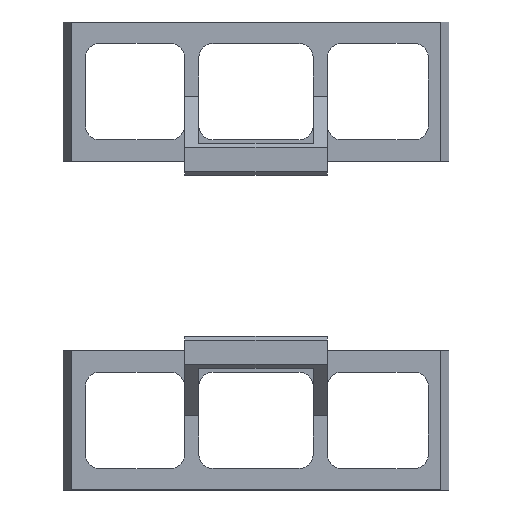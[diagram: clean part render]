
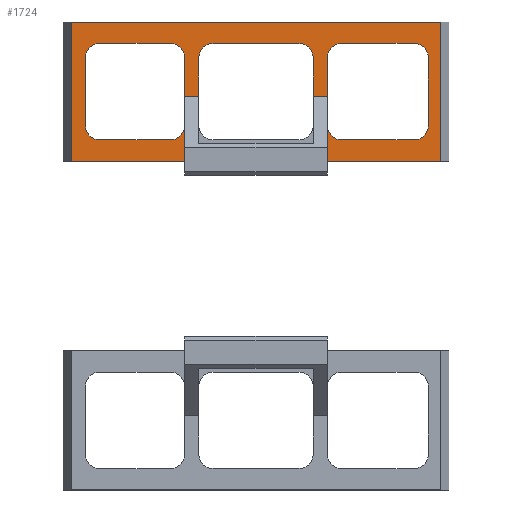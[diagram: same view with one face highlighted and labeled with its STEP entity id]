
A CAD part, top view. The second image highlights one B-rep face of the part: STEP entity #1724.
In plain terms, the highlighted planar face has unit normal (0, 0, 1).
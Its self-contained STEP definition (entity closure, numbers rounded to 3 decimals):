
#43=PLANE('',#1835);
#90=VECTOR('',#1937,1.);
#94=VECTOR('',#1948,1.);
#98=VECTOR('',#1959,1.);
#104=VECTOR('',#1978,1.);
#116=VECTOR('',#2016,1.);
#120=VECTOR('',#2027,1.);
#124=VECTOR('',#2038,1.);
#130=VECTOR('',#2051,1.);
#131=VECTOR('',#2052,1.);
#132=VECTOR('',#2053,1.);
#133=VECTOR('',#2054,1.);
#134=VECTOR('',#2055,1.);
#135=VECTOR('',#2056,1.);
#136=VECTOR('',#2057,1.);
#137=VECTOR('',#2058,1.);
#138=VECTOR('',#2059,1.);
#139=VECTOR('',#2060,1.);
#140=VECTOR('',#2061,1.);
#141=VECTOR('',#2062,1.);
#290=LINE('',#2359,#90);
#294=LINE('',#2371,#94);
#298=LINE('',#2383,#98);
#304=LINE('',#2404,#104);
#316=LINE('',#2446,#116);
#320=LINE('',#2458,#120);
#324=LINE('',#2470,#124);
#330=LINE('',#2485,#130);
#331=LINE('',#2488,#131);
#332=LINE('',#2490,#132);
#333=LINE('',#2492,#133);
#334=LINE('',#2493,#134);
#335=LINE('',#2495,#135);
#336=LINE('',#2497,#136);
#337=LINE('',#2498,#137);
#338=LINE('',#2501,#138);
#339=LINE('',#2502,#139);
#340=LINE('',#2504,#140);
#341=LINE('',#2506,#141);
#489=VERTEX_POINT('',#2352);
#490=VERTEX_POINT('',#2354);
#492=VERTEX_POINT('',#2360);
#494=VERTEX_POINT('',#2366);
#496=VERTEX_POINT('',#2372);
#498=VERTEX_POINT('',#2378);
#500=VERTEX_POINT('',#2384);
#502=VERTEX_POINT('',#2390);
#505=VERTEX_POINT('',#2397);
#506=VERTEX_POINT('',#2399);
#508=VERTEX_POINT('',#2405);
#510=VERTEX_POINT('',#2411);
#521=VERTEX_POINT('',#2439);
#522=VERTEX_POINT('',#2441);
#524=VERTEX_POINT('',#2447);
#526=VERTEX_POINT('',#2453);
#528=VERTEX_POINT('',#2459);
#530=VERTEX_POINT('',#2465);
#532=VERTEX_POINT('',#2471);
#534=VERTEX_POINT('',#2477);
#537=VERTEX_POINT('',#2486);
#538=VERTEX_POINT('',#2487);
#539=VERTEX_POINT('',#2489);
#540=VERTEX_POINT('',#2491);
#541=VERTEX_POINT('',#2494);
#542=VERTEX_POINT('',#2496);
#543=VERTEX_POINT('',#2499);
#544=VERTEX_POINT('',#2500);
#545=VERTEX_POINT('',#2503);
#546=VERTEX_POINT('',#2505);
#664=CIRCLE('',#1793,2.);
#666=CIRCLE('',#1797,2.);
#668=CIRCLE('',#1801,2.);
#670=CIRCLE('',#1805,2.);
#672=CIRCLE('',#1808,2.);
#674=CIRCLE('',#1812,2.);
#680=CIRCLE('',#1822,2.);
#682=CIRCLE('',#1826,2.);
#684=CIRCLE('',#1830,2.);
#686=CIRCLE('',#1834,2.);
#721=EDGE_CURVE('',#490,#489,#664,.T.);
#724=EDGE_CURVE('',#492,#490,#290,.T.);
#727=EDGE_CURVE('',#494,#492,#666,.T.);
#730=EDGE_CURVE('',#496,#494,#294,.T.);
#733=EDGE_CURVE('',#498,#496,#668,.T.);
#736=EDGE_CURVE('',#500,#498,#298,.T.);
#739=EDGE_CURVE('',#502,#500,#670,.T.);
#743=EDGE_CURVE('',#506,#505,#672,.T.);
#746=EDGE_CURVE('',#508,#506,#304,.T.);
#749=EDGE_CURVE('',#510,#508,#674,.T.);
#763=EDGE_CURVE('',#522,#521,#680,.T.);
#766=EDGE_CURVE('',#524,#522,#316,.T.);
#769=EDGE_CURVE('',#526,#524,#682,.T.);
#772=EDGE_CURVE('',#528,#526,#320,.T.);
#775=EDGE_CURVE('',#530,#528,#684,.T.);
#778=EDGE_CURVE('',#532,#530,#324,.T.);
#781=EDGE_CURVE('',#534,#532,#686,.T.);
#786=EDGE_CURVE('',#537,#538,#330,.T.);
#787=EDGE_CURVE('',#539,#538,#331,.T.);
#788=EDGE_CURVE('',#540,#539,#332,.T.);
#789=EDGE_CURVE('',#537,#540,#333,.T.);
#790=EDGE_CURVE('',#489,#541,#334,.T.);
#791=EDGE_CURVE('',#541,#542,#335,.T.);
#792=EDGE_CURVE('',#542,#510,#336,.T.);
#793=EDGE_CURVE('',#505,#543,#337,.T.);
#794=EDGE_CURVE('',#543,#544,#335,.T.);
#795=EDGE_CURVE('',#544,#534,#338,.T.);
#796=EDGE_CURVE('',#521,#545,#339,.T.);
#797=EDGE_CURVE('',#545,#546,#340,.T.);
#798=EDGE_CURVE('',#546,#502,#341,.T.);
#1069=ORIENTED_EDGE('',*,*,#786,.T.);
#1070=ORIENTED_EDGE('',*,*,#787,.F.);
#1071=ORIENTED_EDGE('',*,*,#788,.F.);
#1072=ORIENTED_EDGE('',*,*,#789,.F.);
#1073=ORIENTED_EDGE('',*,*,#739,.T.);
#1074=ORIENTED_EDGE('',*,*,#736,.T.);
#1075=ORIENTED_EDGE('',*,*,#733,.T.);
#1076=ORIENTED_EDGE('',*,*,#730,.T.);
#1077=ORIENTED_EDGE('',*,*,#727,.T.);
#1078=ORIENTED_EDGE('',*,*,#724,.T.);
#1079=ORIENTED_EDGE('',*,*,#721,.T.);
#1080=ORIENTED_EDGE('',*,*,#790,.T.);
#1081=ORIENTED_EDGE('',*,*,#791,.T.);
#1082=ORIENTED_EDGE('',*,*,#792,.T.);
#1083=ORIENTED_EDGE('',*,*,#749,.T.);
#1084=ORIENTED_EDGE('',*,*,#746,.T.);
#1085=ORIENTED_EDGE('',*,*,#743,.T.);
#1086=ORIENTED_EDGE('',*,*,#793,.T.);
#1087=ORIENTED_EDGE('',*,*,#794,.T.);
#1088=ORIENTED_EDGE('',*,*,#795,.T.);
#1089=ORIENTED_EDGE('',*,*,#781,.T.);
#1090=ORIENTED_EDGE('',*,*,#778,.T.);
#1091=ORIENTED_EDGE('',*,*,#775,.T.);
#1092=ORIENTED_EDGE('',*,*,#772,.T.);
#1093=ORIENTED_EDGE('',*,*,#769,.T.);
#1094=ORIENTED_EDGE('',*,*,#766,.T.);
#1095=ORIENTED_EDGE('',*,*,#763,.T.);
#1096=ORIENTED_EDGE('',*,*,#796,.T.);
#1097=ORIENTED_EDGE('',*,*,#797,.T.);
#1098=ORIENTED_EDGE('',*,*,#798,.T.);
#1532=EDGE_LOOP('',(#1069,#1070,#1071,#1072));
#1533=EDGE_LOOP('',(#1073,#1074,#1075,#1076,#1077,#1078,#1079,#1080,#1081,
#1082,#1083,#1084,#1085,#1086,#1087,#1088,#1089,#1090,#1091,#1092,#1093,
#1094,#1095,#1096,#1097,#1098));
#1628=FACE_BOUND('',#1532,.T.);
#1629=FACE_BOUND('',#1533,.T.);
#1724=ADVANCED_FACE('',(#1628,#1629),#43,.T.);
#1793=AXIS2_PLACEMENT_3D('',#2353,#1932,#1933);
#1797=AXIS2_PLACEMENT_3D('',#2365,#1943,#1944);
#1801=AXIS2_PLACEMENT_3D('',#2377,#1954,#1955);
#1805=AXIS2_PLACEMENT_3D('',#2389,#1965,#1966);
#1808=AXIS2_PLACEMENT_3D('',#2398,#1973,#1974);
#1812=AXIS2_PLACEMENT_3D('',#2410,#1984,#1985);
#1822=AXIS2_PLACEMENT_3D('',#2440,#2011,#2012);
#1826=AXIS2_PLACEMENT_3D('',#2452,#2022,#2023);
#1830=AXIS2_PLACEMENT_3D('',#2464,#2033,#2034);
#1834=AXIS2_PLACEMENT_3D('',#2476,#2044,#2045);
#1835=AXIS2_PLACEMENT_3D('',#2479,#2047,$);
#1932=DIRECTION('',(0.,0.,-1.));
#1933=DIRECTION('',(2.,0.,0.));
#1937=DIRECTION('',(1.,0.,0.));
#1943=DIRECTION('',(0.,0.,-1.));
#1944=DIRECTION('',(2.,0.,0.));
#1948=DIRECTION('',(0.,1.,0.));
#1954=DIRECTION('',(0.,0.,-1.));
#1955=DIRECTION('',(2.,0.,0.));
#1959=DIRECTION('',(-1.,0.,0.));
#1965=DIRECTION('',(0.,0.,-1.));
#1966=DIRECTION('',(2.,0.,0.));
#1973=DIRECTION('',(0.,0.,-1.));
#1974=DIRECTION('',(2.,0.,0.));
#1978=DIRECTION('',(1.,0.,0.));
#1984=DIRECTION('',(0.,0.,-1.));
#1985=DIRECTION('',(2.,0.,0.));
#2011=DIRECTION('',(0.,0.,-1.));
#2012=DIRECTION('',(2.,0.,0.));
#2016=DIRECTION('',(-1.,0.,0.));
#2022=DIRECTION('',(0.,0.,-1.));
#2023=DIRECTION('',(2.,0.,0.));
#2027=DIRECTION('',(0.,-1.,0.));
#2033=DIRECTION('',(0.,0.,-1.));
#2034=DIRECTION('',(2.,0.,0.));
#2038=DIRECTION('',(1.,0.,0.));
#2044=DIRECTION('',(0.,0.,-1.));
#2045=DIRECTION('',(2.,0.,0.));
#2047=DIRECTION('',(0.,0.,1.));
#2051=DIRECTION('',(1.,0.,0.));
#2052=DIRECTION('',(0.,-1.,0.));
#2053=DIRECTION('',(1.,0.,0.));
#2054=DIRECTION('',(0.,1.,0.));
#2055=DIRECTION('',(0.,-1.,0.));
#2056=DIRECTION('',(1.,0.,0.));
#2057=DIRECTION('',(0.,1.,0.));
#2058=DIRECTION('',(0.,-1.,0.));
#2059=DIRECTION('',(0.,1.,0.));
#2060=DIRECTION('',(0.,-1.,0.));
#2061=DIRECTION('',(-1.,0.,0.));
#2062=DIRECTION('',(0.,1.,0.));
#2352=CARTESIAN_POINT('',(-10.,27.75,2.));
#2353=CARTESIAN_POINT('',(-12.,27.75,2.));
#2354=CARTESIAN_POINT('',(-12.,29.75,2.));
#2359=CARTESIAN_POINT('',(-8.469,29.75,2.));
#2360=CARTESIAN_POINT('',(-21.874,29.75,2.));
#2365=CARTESIAN_POINT('',(-21.874,27.75,2.));
#2366=CARTESIAN_POINT('',(-23.874,27.75,2.));
#2371=CARTESIAN_POINT('',(-23.874,11.5,2.));
#2372=CARTESIAN_POINT('',(-23.874,18.25,2.));
#2377=CARTESIAN_POINT('',(-21.874,18.25,2.));
#2378=CARTESIAN_POINT('',(-21.874,16.25,2.));
#2383=CARTESIAN_POINT('',(-8.469,16.25,2.));
#2384=CARTESIAN_POINT('',(-12.,16.25,2.));
#2389=CARTESIAN_POINT('',(-12.,18.25,2.));
#2390=CARTESIAN_POINT('',(-10.,18.25,2.));
#2397=CARTESIAN_POINT('',(8.,27.75,2.));
#2398=CARTESIAN_POINT('',(6.,27.75,2.));
#2399=CARTESIAN_POINT('',(6.,29.75,2.));
#2404=CARTESIAN_POINT('',(0.,29.75,2.));
#2405=CARTESIAN_POINT('',(-6.,29.75,2.));
#2410=CARTESIAN_POINT('',(-6.,27.75,2.));
#2411=CARTESIAN_POINT('',(-8.,27.75,2.));
#2439=CARTESIAN_POINT('',(10.,18.25,2.));
#2440=CARTESIAN_POINT('',(12.,18.25,2.));
#2441=CARTESIAN_POINT('',(12.,16.25,2.));
#2446=CARTESIAN_POINT('',(8.531,16.25,2.));
#2447=CARTESIAN_POINT('',(22.126,16.25,2.));
#2452=CARTESIAN_POINT('',(22.126,18.25,2.));
#2453=CARTESIAN_POINT('',(24.126,18.25,2.));
#2458=CARTESIAN_POINT('',(24.126,11.5,2.));
#2459=CARTESIAN_POINT('',(24.126,27.75,2.));
#2464=CARTESIAN_POINT('',(22.126,27.75,2.));
#2465=CARTESIAN_POINT('',(22.126,29.75,2.));
#2470=CARTESIAN_POINT('',(8.531,29.75,2.));
#2471=CARTESIAN_POINT('',(12.,29.75,2.));
#2476=CARTESIAN_POINT('',(12.,27.75,2.));
#2477=CARTESIAN_POINT('',(10.,27.75,2.));
#2479=CARTESIAN_POINT('',(0.,0.,2.));
#2485=CARTESIAN_POINT('',(0.72,13.25,2.));
#2486=CARTESIAN_POINT('',(-25.874,13.25,2.));
#2487=CARTESIAN_POINT('',(25.874,13.25,2.));
#2488=CARTESIAN_POINT('',(25.874,0.,2.));
#2489=CARTESIAN_POINT('',(25.874,32.75,2.));
#2490=CARTESIAN_POINT('',(27.,32.75,2.));
#2491=CARTESIAN_POINT('',(-25.874,32.75,2.));
#2492=CARTESIAN_POINT('',(-25.874,0.,2.));
#2493=CARTESIAN_POINT('',(-10.,11.5,2.));
#2494=CARTESIAN_POINT('',(-10.,22.353,2.));
#2495=CARTESIAN_POINT('',(-5.,22.353,2.));
#2496=CARTESIAN_POINT('',(-8.,22.353,2.));
#2497=CARTESIAN_POINT('',(-8.,11.5,2.));
#2498=CARTESIAN_POINT('',(8.,11.5,2.));
#2499=CARTESIAN_POINT('',(8.,22.353,2.));
#2500=CARTESIAN_POINT('',(10.,22.353,2.));
#2501=CARTESIAN_POINT('',(10.,11.5,2.));
#2502=CARTESIAN_POINT('',(10.,8.498,2.));
#2503=CARTESIAN_POINT('',(10.,13.268,2.));
#2504=CARTESIAN_POINT('',(-5.,13.268,2.));
#2505=CARTESIAN_POINT('',(-10.,13.268,2.));
#2506=CARTESIAN_POINT('',(-10.,8.498,2.));
